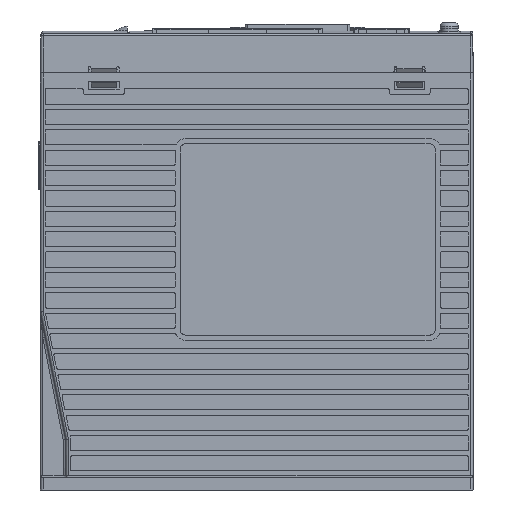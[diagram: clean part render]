
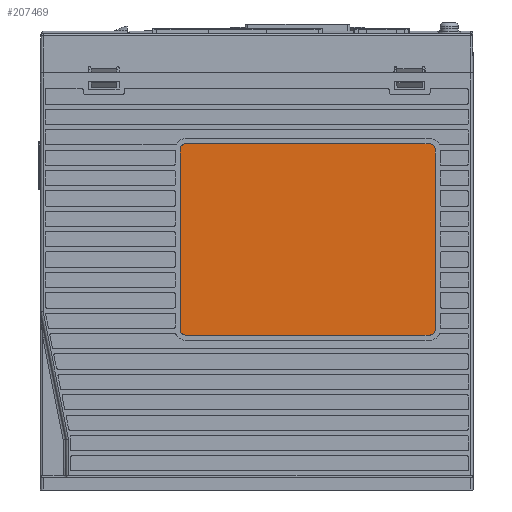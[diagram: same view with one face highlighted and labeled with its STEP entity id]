
A CAD part, left-side view. The second image highlights one B-rep face of the part: STEP entity #207469.
In plain terms, the highlighted planar face has unit normal (-1, 0, 0).
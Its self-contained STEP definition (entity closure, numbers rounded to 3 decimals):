
#74965=DIRECTION('',(0.,0.,-1.));
#74966=VECTOR('',#74965,71.);
#74967=CARTESIAN_POINT('',(0.3,30.,133.8));
#74968=LINE('',#74967,#74966);
#74986=DIRECTION('',(0.,1.,0.));
#74987=VECTOR('',#74986,96.);
#74988=CARTESIAN_POINT('',(0.3,-68.,135.8));
#74989=LINE('',#74988,#74987);
#74993=DIRECTION('',(0.,-1.,0.));
#74994=VECTOR('',#74993,96.);
#74995=CARTESIAN_POINT('',(0.3,28.,60.8));
#74996=LINE('',#74995,#74994);
#75015=CARTESIAN_POINT('',(0.3,28.,62.8));
#75016=DIRECTION('',(-1.,0.,0.));
#75017=DIRECTION('',(0.,1.,0.));
#75018=AXIS2_PLACEMENT_3D('',#75015,#75016,#75017);
#75037=CARTESIAN_POINT('',(0.3,-68.,62.8));
#75038=DIRECTION('',(-1.,0.,0.));
#75039=DIRECTION('',(0.,0.,-1.));
#75040=AXIS2_PLACEMENT_3D('',#75037,#75038,#75039);
#75053=DIRECTION('',(0.,0.,1.));
#75054=VECTOR('',#75053,71.);
#75055=CARTESIAN_POINT('',(0.3,-70.,62.8));
#75056=LINE('',#75055,#75054);
#75089=CARTESIAN_POINT('',(0.3,-68.,133.8));
#75090=DIRECTION('',(-1.,0.,0.));
#75091=DIRECTION('',(0.,-1.,0.));
#75092=AXIS2_PLACEMENT_3D('',#75089,#75090,#75091);
#75111=CARTESIAN_POINT('',(0.3,28.,133.8));
#75112=DIRECTION('',(-1.,0.,0.));
#75113=DIRECTION('',(0.,0.,1.));
#75114=AXIS2_PLACEMENT_3D('',#75111,#75112,#75113);
#136295=CARTESIAN_POINT('',(0.3,28.,60.8));
#136297=VERTEX_POINT('',#136295);
#136299=CARTESIAN_POINT('',(0.3,28.,135.8));
#136301=VERTEX_POINT('',#136299);
#136303=CARTESIAN_POINT('',(0.3,-68.,135.8));
#136305=VERTEX_POINT('',#136303);
#136307=CARTESIAN_POINT('',(0.3,-68.,60.8));
#136309=VERTEX_POINT('',#136307);
#136566=CARTESIAN_POINT('',(0.3,30.,133.8));
#136568=VERTEX_POINT('',#136566);
#136570=CARTESIAN_POINT('',(0.3,-70.,133.8));
#136572=VERTEX_POINT('',#136570);
#138429=CARTESIAN_POINT('',(0.3,30.,62.8));
#138431=VERTEX_POINT('',#138429);
#138433=CARTESIAN_POINT('',(0.3,-70.,62.8));
#138435=VERTEX_POINT('',#138433);
#207447=CARTESIAN_POINT('',(0.3,5.,5.));
#207448=DIRECTION('',(-1.,0.,0.));
#207449=DIRECTION('',(0.,0.,1.));
#207450=AXIS2_PLACEMENT_3D('',#207447,#207448,#207449);
#207451=PLANE('',#207450);
#207453=ORIENTED_EDGE('',*,*,#207452,.F.);
#207454=ORIENTED_EDGE('',*,*,#207437,.F.);
#207456=ORIENTED_EDGE('',*,*,#207455,.F.);
#207458=ORIENTED_EDGE('',*,*,#207457,.F.);
#207460=ORIENTED_EDGE('',*,*,#207459,.F.);
#207462=ORIENTED_EDGE('',*,*,#207461,.F.);
#207464=ORIENTED_EDGE('',*,*,#207463,.F.);
#207466=ORIENTED_EDGE('',*,*,#207465,.F.);
#207467=EDGE_LOOP('',(#207453,#207454,#207456,#207458,#207460,#207462,#207464,
#207466));
#207468=FACE_OUTER_BOUND('',#207467,.F.);
#75019=CIRCLE('',#75018,2.);
#75041=CIRCLE('',#75040,2.);
#75093=CIRCLE('',#75092,2.);
#75115=CIRCLE('',#75114,2.);
#207437=EDGE_CURVE('',#136568,#138431,#74968,.T.);
#207452=EDGE_CURVE('',#138431,#136297,#75019,.T.);
#207455=EDGE_CURVE('',#136301,#136568,#75115,.T.);
#207457=EDGE_CURVE('',#136305,#136301,#74989,.T.);
#207459=EDGE_CURVE('',#136572,#136305,#75093,.T.);
#207461=EDGE_CURVE('',#138435,#136572,#75056,.T.);
#207463=EDGE_CURVE('',#136309,#138435,#75041,.T.);
#207465=EDGE_CURVE('',#136297,#136309,#74996,.T.);
#207469=ADVANCED_FACE('',(#207468),#207451,.T.);
